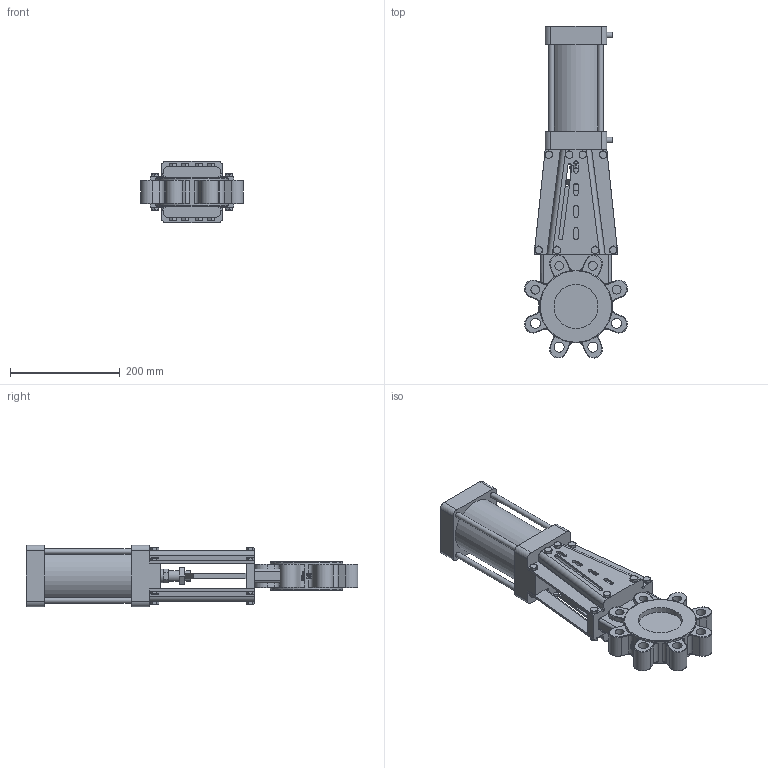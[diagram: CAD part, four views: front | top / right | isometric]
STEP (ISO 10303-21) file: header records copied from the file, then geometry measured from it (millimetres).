
FILE_DESCRIPTION(('STEP AP242'), '1');
FILE_NAME('GVKR1331M-1W-Fb-2P Çàäâèæêà øèáåðíàÿ ñ âûäâèæíûì øòîêîì DN.ru Äó80 Ðó16', '2026-05-25T20:09:03', ('R2D2'), (''), 'C3D Converter', 'C3D Toolkit', '');
FILE_SCHEMA(('AP242_MANAGED_MODEL_BASED_3D_ENGINEERING_MIM_LF { 1 0 10303 442 1 1 4 }'));
Length unit declared in the file: millimetre
Products named in the file (1): GVKR1331M-1W-Fb-2P
Bounding box: 187.18 x 603.59 x 112 mm (x, y, z)
Volume: 3733366 mm3; surface area: 404395.8 mm2
Topology: 1 solids, 1 shells, 929 faces, 2345 edges, 1464 vertices
Faces by surface type: plane 466, cylinder 181, extrusion 136, cone 96, torus 50
Full cylindrical faces by diameter (mm): 10 x6, 13 x16, 16 x8, 18 x4, 19.8 x2, 20 x1, 25 x1, 80 x2, 100 x1, 132 x1
Entity records: 46749 total; most frequent: CARTESIAN_POINT 17822, ORIENTED_EDGE 4600, DIRECTION 4048, EDGE_CURVE 2300, VERTEX_POINT 1464, AXIS2_PLACEMENT_3D 1412, VECTOR 1224, LINE 1088
